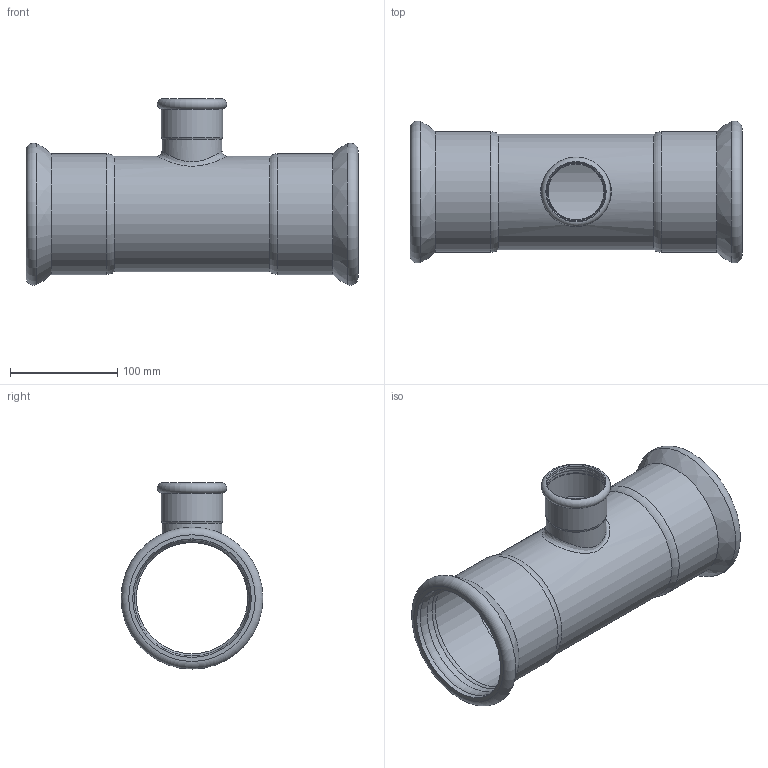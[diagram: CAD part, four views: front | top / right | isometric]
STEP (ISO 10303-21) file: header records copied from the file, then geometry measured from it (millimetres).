
FILE_DESCRIPTION(/* description */ ('TEE RIDOTTO 108-54-108'),/* implementation_level */ '2;1');
FILE_NAME(/* name */ 'T:\A_ARTICOLI\ARTICOLI PRODOTTI_WEB\Articoli_STEELPRES_WEB\Temporary Step\392108054_Steelpres.ipt.step',/* time_stamp */ '2016-01-20T11:57:24+01:00',/* author */ ('Ghirlinghelli Diego'),/* organization */ (''),/* preprocessor_version */ 'ST-DEVELOPER v15.2',/* originating_system */ 'Autodesk Inventor 2014',/* authorisation */ 'R.M. S.p.A. si riserva a termini di legge la proprietà del presente disegno con divieto di riprodurlo o comunicarlo a terzi senza sua autorizzazione scritta');
FILE_SCHEMA (('AUTOMOTIVE_DESIGN { 1 0 10303 214 3 1 1 }'));
Length unit declared in the file: millimetre
Products named in the file (1): 392108054_Steelpres
Bounding box: 310 x 132.47 x 173.83 mm (x, y, z)
Volume: 339261.7 mm3; surface area: 239007.3 mm2
Topology: 1 solids, 1 shells, 40 faces, 93 edges, 56 vertices
Faces by surface type: cylinder 17, torus 15, bspline 4, plane 3, cone 1
Full cylindrical faces by diameter (mm): 52 x1, 53 x1, 54.5 x1, 54.7 x2, 56 x1, 57.5 x1, 104 x1, 108 x1, 108.8 x2, 110.7 x4, 112.8 x2
Entity records: 1586 total; most frequent: CARTESIAN_POINT 845, DIRECTION 160, ORIENTED_EDGE 98, AXIS2_PLACEMENT_3D 80, EDGE_LOOP 78, EDGE_CURVE 49, VERTEX_POINT 45, CIRCLE 43
